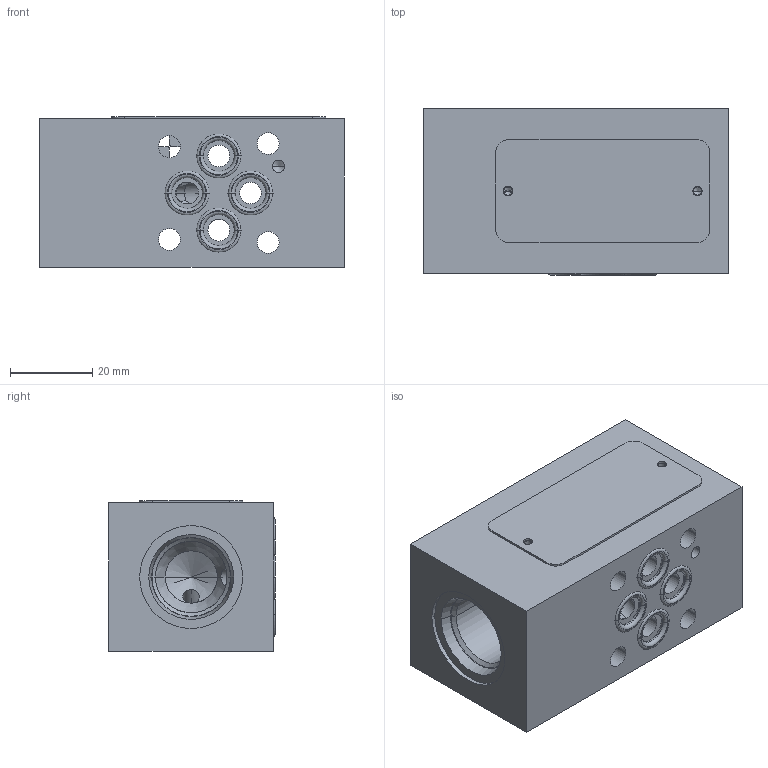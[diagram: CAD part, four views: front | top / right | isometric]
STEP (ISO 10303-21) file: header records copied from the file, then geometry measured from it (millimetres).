
FILE_DESCRIPTION((''),'2;1');
FILE_NAME('301500_ASM','2023-10-12T',('l.soukupova'),(''),'PRO/ENGINEER BY PARAMETRIC TECHNOLOGY CORPORATION, 2015440','PRO/ENGINEER BY PARAMETRIC TECHNOLOGY CORPORATION, 2015440','');
FILE_SCHEMA(('AUTOMOTIVE_DESIGN { 1 0 10303 214 1 1 1 1 }'));
Length unit declared in the file: millimetre
Products named in the file (7): 301501; ORIA00750_292673_AF0; ORIA00750_292673_AF1; ORIA00750_292673_AF2; ORIA00750_292673_AF3; RD_LABEL_25X52_159703; 301500_ASM
Assembly tree (6 placements, depth 2):
  301500_ASM
    301501
    ORIA00750_292673_AF0
    ORIA00750_292673_AF1
    ORIA00750_292673_AF2
    ORIA00750_292673_AF3
    RD_LABEL_25X52_159703
Bounding box: 74 x 40.4 x 36.5 mm (x, y, z)
Volume: 92678.7 mm3; surface area: 25281.4 mm2
Topology: 6 solids, 9 shells, 156 faces, 498 edges, 425 vertices
Faces by surface type: cylinder 74, torus 32, plane 28, cone 22
Entity records: 9408 total; most frequent: CARTESIAN_POINT 1650, DIRECTION 1089, ORIENTED_EDGE 716, PRESENTATION_STYLE_ASSIGNMENT 640, STYLED_ITEM 543, CURVE_STYLE 535, AXIS2_PLACEMENT_3D 438, EDGE_CURVE 364
